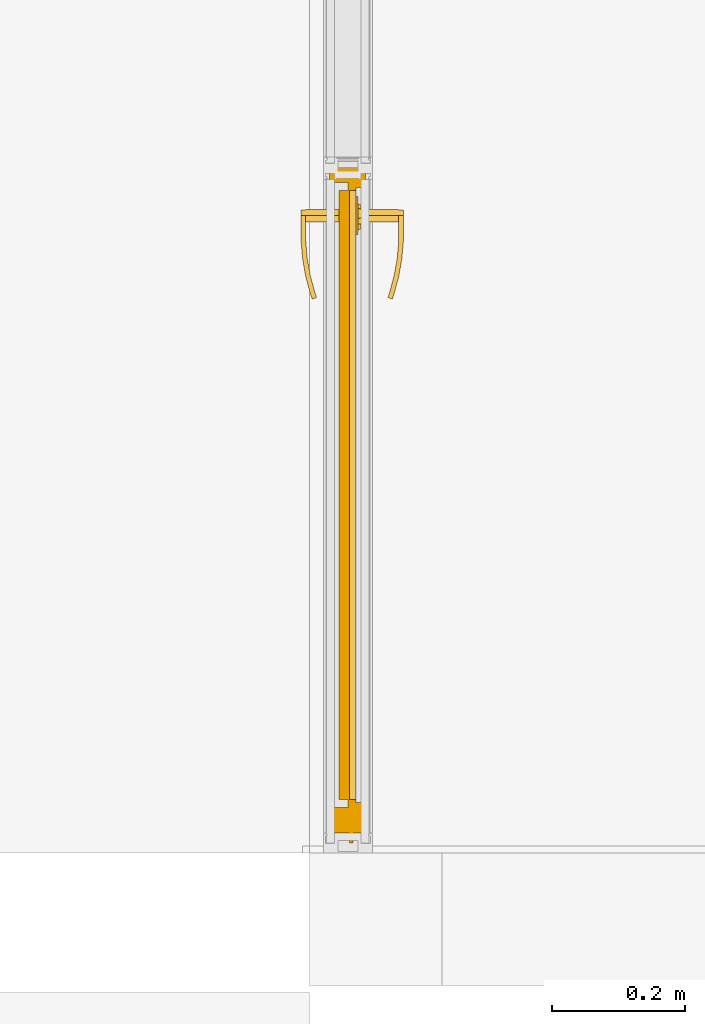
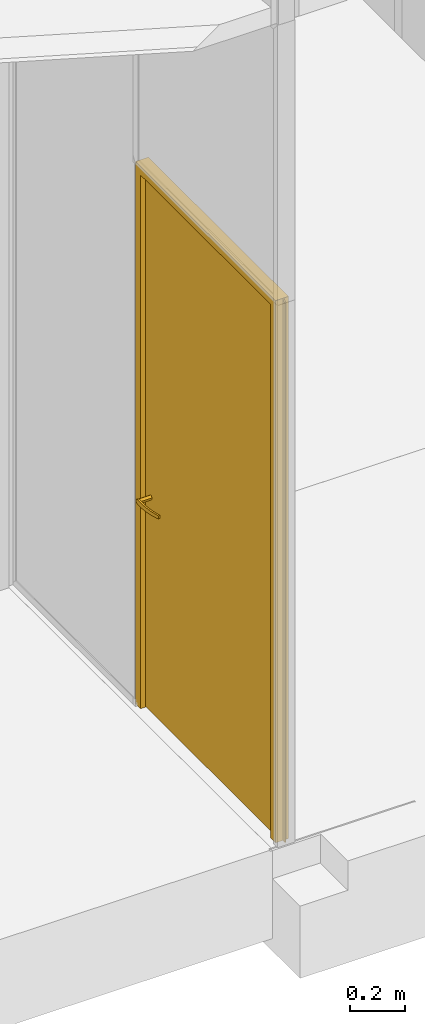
# One storey, part 30 of 43: 1 door, 1 element without a shape of its own.
"""IFC2X3 building model written with IfcOpenShell, lengths in millimetres."""

from ifc_helpers import new_model, entity, si_unit, converted_unit, derived_unit, money_unit, direction, frame, origin_with_axes, place, context, subcontext, project, spatial, open_shell, faceted_brep, surface_model, material, material_list, type_object, element, aggregate, save


model = new_model("IFC2X3")

# Units and contexts
model_context = context("Model", 3, precision=0.01, world=origin_with_axes(), true_north=direction((0.0, 1.0)))
body_context = subcontext(model_context, "Body", "Model", "MODEL_VIEW")
ifc_project = project(units=[si_unit("LENGTHUNIT", "METRE", prefix="MILLI"), si_unit("AREAUNIT", "SQUARE_METRE"), si_unit("VOLUMEUNIT", "CUBIC_METRE"), converted_unit("PLANEANGLEUNIT", "DEGREE", entity("IfcPlaneAngleMeasure", 0.0174532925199), si_unit("PLANEANGLEUNIT", "RADIAN"), dimensions=[0, 0, 0, 0, 0, 0, 0]), si_unit("SOLIDANGLEUNIT", "STERADIAN"), money_unit("EUR"), converted_unit("TIMEUNIT", "Year", entity("IfcTimeMeasure", 31556926.0), si_unit("TIMEUNIT", "SECOND"), dimensions=[0, 0, 1, 0, 0, 0, 0]), si_unit("MASSUNIT", "GRAM", prefix="KILO"), si_unit("THERMODYNAMICTEMPERATUREUNIT", "DEGREE_CELSIUS"), si_unit("LUMINOUSINTENSITYUNIT", "LUMEN"), si_unit("ENERGYUNIT", "JOULE", prefix="MEGA"), derived_unit("THERMALCONDUCTANCEUNIT", [(si_unit("POWERUNIT", "WATT"), 1), (si_unit("LENGTHUNIT", "METRE"), -1), (si_unit("THERMODYNAMICTEMPERATUREUNIT", "KELVIN"), -1)]), derived_unit("SPECIFICHEATCAPACITYUNIT", [(si_unit("ENERGYUNIT", "JOULE"), 1), (si_unit("MASSUNIT", "GRAM", prefix="KILO"), -1), (si_unit("THERMODYNAMICTEMPERATUREUNIT", "KELVIN"), -1)]), derived_unit("MASSDENSITYUNIT", [(si_unit("MASSUNIT", "GRAM", prefix="KILO"), 1), (si_unit("VOLUMEUNIT", "CUBIC_METRE"), -1)])], contexts=[model_context])

# Site, building, storey
site_placement = place(None, origin_with_axes())
site = spatial("IfcSite", under=ifc_project, at=site_placement, Name="L.Koidula tn 11b", CompositionType="ELEMENT")
building_placement = place(site_placement, origin_with_axes())
building = spatial("IfcBuilding", under=site, at=building_placement, Name="Rakvere Riigigümnaasium", CompositionType="ELEMENT")
storey_placement = place(building_placement, frame((0.0, 0.0, 6665.0), z_axis=(0.0, 0.0, 1.0), x_axis=(1.0, 0.0, 0.0)))
storey = spatial("IfcBuildingStorey", under=building, at=storey_placement, Name="3.korrus +6,66", CompositionType="ELEMENT", Elevation=6665.0)

# Curtain wall, door
curtain_wall_type = type_object("IfcCurtainWallType", Name="Curtain Wall Type", PredefinedType="NOTDEFINED")
curtain_wall_placement = place(storey_placement, frame((47063.0738161, 17825.4555095, 0.0), z_axis=(0.0, 0.0, 1.0), x_axis=(1.0, 0.0, 0.0)))
curtain_wall = element("IfcCurtainWall", 1, at=curtain_wall_placement, inside=storey, type_object=curtain_wall_type, Name="SKLF-24")
ifc_material_1 = material(Name="Alumiiniumprofiil")
ifc_material_2 = material(Name="VKR-05_Klaas")
ifc_material_3 = material(Name="ET-07_Teras - Roostevaba")
ifc_material_list = material_list([ifc_material_1, ifc_material_2, ifc_material_3])
door_style = type_object("IfcDoorStyle", Name="Siseklaasfassaad - Klaasuks-Doubleline 1015 x 2385 x -5", ConstructionType="NOTDEFINED", OperationType="NOTDEFINED", ParameterTakesPrecedence=False, Sizeable=False)
door_placement = place(curtain_wall_placement, frame((0.0, 177.333335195, 1200.0), z_axis=(0.0, 0.0, 1.0), x_axis=(0.0, -1.0, 0.0)))
door = element("IfcDoor", 2, at=door_placement, type_object=door_style, material=ifc_material_list, Name="Panel-Siseklaasf-004", ObjectType="DOOR", context=body_context, shape_type="SurfaceModel", body=[
    faceted_brep([(-354.666664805, 7.5, -1200.0), (-354.666664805, 7.5, 1200.0), (-354.666664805, 21.5, 1200.0), (-354.666664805, 21.5, -1200.0), (-308.666664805, 7.5, -1200.0), (-308.666664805, 7.5, 1154.0), (-308.666664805, 21.5, 1154.0), (-308.666664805, 21.5, -1200.0)], [[[0, 1, 2, 3]], [[0, 4, 5, 1]], [[1, 5, 6, 2]], [[3, 2, 6, 7]], [[4, 0, 3, 7]], [[5, 4, 7, 6]]]),
    faceted_brep([(662.333299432, 7.5, 1200.0), (616.333299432, 7.5, 1154.0), (616.333299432, 21.5, 1154.0), (662.333299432, 21.5, 1200.0), (-354.666664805, 7.5, 1200.0), (-308.666664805, 7.5, 1154.0), (-308.666664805, 21.5, 1154.0), (-354.666664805, 21.5, 1200.0)], [[[0, 1, 2, 3]], [[0, 4, 5, 1]], [[1, 5, 6, 2]], [[3, 2, 6, 7]], [[4, 0, 3, 7]], [[5, 4, 7, 6]]]),
    faceted_brep([(662.333299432, 7.5, -1200.0), (616.333299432, 7.5, -1200.0), (616.333299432, 21.5, -1200.0), (662.333299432, 21.5, -1200.0), (662.333299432, 7.5, 1200.0), (616.333299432, 7.5, 1154.0), (616.333299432, 21.5, 1154.0), (662.333299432, 21.5, 1200.0)], [[[0, 1, 2, 3]], [[0, 4, 5, 1]], [[1, 5, 6, 2]], [[3, 2, 6, 7]], [[4, 0, 3, 7]], [[5, 4, 7, 6]]]),
    faceted_brep([(-354.666664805, -32.5, -1200.0), (-354.666664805, -32.5, 1200.0), (-354.666664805, 7.5, 1200.0), (-354.666664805, 7.5, -1200.0), (-316.666664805, -32.5, -1200.0), (-316.666664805, -32.5, 1162.0), (-316.666664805, 7.5, 1162.0), (-316.666664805, 7.5, -1200.0)], [[[0, 1, 2, 3]], [[0, 4, 5, 1]], [[1, 5, 6, 2]], [[3, 2, 6, 7]], [[4, 0, 3, 7]], [[5, 4, 7, 6]]]),
    faceted_brep([(662.333299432, -32.5, 1200.0), (624.333299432, -32.5, 1162.0), (624.333299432, 7.5, 1162.0), (662.333299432, 7.5, 1200.0), (-354.666664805, -32.5, 1200.0), (-316.666664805, -32.5, 1162.0), (-316.666664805, 7.5, 1162.0), (-354.666664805, 7.5, 1200.0)], [[[0, 1, 2, 3]], [[0, 4, 5, 1]], [[1, 5, 6, 2]], [[3, 2, 6, 7]], [[4, 0, 3, 7]], [[5, 4, 7, 6]]]),
    faceted_brep([(662.333299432, -32.5, -1200.0), (624.333299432, -32.5, -1200.0), (624.333299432, 7.5, -1200.0), (662.333299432, 7.5, -1200.0), (662.333299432, -32.5, 1200.0), (624.333299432, -32.5, 1162.0), (624.333299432, 7.5, 1162.0), (662.333299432, 7.5, 1200.0)], [[[0, 1, 2, 3]], [[0, 4, 5, 1]], [[1, 5, 6, 2]], [[3, 2, 6, 7]], [[4, 0, 3, 7]], [[5, 4, 7, 6]]]),
    faceted_brep([(-354.666664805, -2.5, 1200.0), (662.333299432, -2.5, 1200.0), (662.333299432, 2.5, 1200.0), (-354.666664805, 2.5, 1200.0), (-354.666664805, -2.5, 1185.0), (677.333335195, -2.5, 1185.0), (677.333335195, 2.5, 1185.0), (-354.666664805, 2.5, 1185.0)], [[[0, 1, 2, 3]], [[0, 4, 5, 1]], [[1, 5, 6, 2]], [[3, 2, 6, 7]], [[4, 0, 3, 7]], [[5, 4, 7, 6]]]),
    faceted_brep([(677.333335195, -2.5, 1185.0), (677.333335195, -2.5, -1200.0), (677.333335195, 2.5, -1200.0), (677.333335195, 2.5, 1185.0), (662.333299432, -2.5, 1200.0), (662.333299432, -2.5, -1200.0), (662.333299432, 2.5, -1200.0), (662.333299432, 2.5, 1200.0)], [[[0, 1, 2, 3]], [[0, 4, 5, 1]], [[1, 5, 6, 2]], [[3, 2, 6, 7]], [[4, 0, 3, 7]], [[5, 4, 7, 6]]]),
    faceted_brep([(612.333299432, 7.5, -1188.0), (612.333299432, -4.5, -1188.0), (612.333299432, -4.5, 1150.0), (612.333299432, 7.5, 1150.0), (624.333299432, 7.5, -1200.0), (624.333299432, -4.5, -1200.0), (624.333299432, -4.5, 1162.0), (624.333299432, 7.5, 1162.0)], [[[0, 1, 2, 3]], [[4, 5, 1, 0]], [[1, 5, 6, 2]], [[3, 2, 6, 7]], [[0, 3, 7, 4]], [[7, 6, 5, 4]]]),
    faceted_brep([(-316.666664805, 7.5, -1200.0), (-316.666664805, -4.5, -1200.0), (-316.666664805, -4.5, 1162.0), (-316.666664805, 7.5, 1162.0), (-304.666664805, 7.5, -1188.0), (-304.666664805, -4.5, -1188.0), (-304.666664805, -4.5, 1150.0), (-304.666664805, 7.5, 1150.0)], [[[0, 1, 2, 3]], [[4, 5, 1, 0]], [[1, 5, 6, 2]], [[3, 2, 6, 7]], [[0, 3, 7, 4]], [[7, 6, 5, 4]]]),
    faceted_brep([(-316.666664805, 7.5, -1200.0), (-316.666664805, -4.5, -1200.0), (-304.666664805, -4.5, -1188.0), (-304.666664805, 7.5, -1188.0), (624.333299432, 7.5, -1200.0), (624.333299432, -4.5, -1200.0), (612.333299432, -4.5, -1188.0), (612.333299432, 7.5, -1188.0)], [[[0, 1, 2, 3]], [[4, 5, 1, 0]], [[1, 5, 6, 2]], [[3, 2, 6, 7]], [[0, 3, 7, 4]], [[7, 6, 5, 4]]]),
    faceted_brep([(624.333299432, 7.5, 1162.0), (624.333299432, -4.5, 1162.0), (612.333299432, -4.5, 1150.0), (612.333299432, 7.5, 1150.0), (-316.666664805, 7.5, 1162.0), (-316.666664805, -4.5, 1162.0), (-304.666664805, -4.5, 1150.0), (-304.666664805, 7.5, 1150.0)], [[[0, 1, 2, 3]], [[4, 5, 1, 0]], [[1, 5, 6, 2]], [[3, 2, 6, 7]], [[0, 3, 7, 4]], [[7, 6, 5, 4]]]),
    faceted_brep([(612.333299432, -2.5, -1188.0), (612.333299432, -18.5, -1188.0), (-304.666664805, -18.5, -1188.0), (-304.666664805, -2.5, -1188.0), (612.333299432, -2.5, 1150.0), (612.333299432, -18.5, 1150.0), (-304.666664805, -18.5, 1150.0), (-304.666664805, -2.5, 1150.0)], [[[0, 1, 2, 3]], [[4, 5, 1, 0]], [[1, 5, 6, 2]], [[3, 2, 6, 7]], [[0, 3, 7, 4]], [[7, 6, 5, 4]]]),
    faceted_brep([(-295.166664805, -4.5, -178.0), (-295.166664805, -7.5, -178.0), (-238.166664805, -7.5, -178.0), (-238.166664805, -4.5, -178.0), (-295.166664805, -4.5, -368.0), (-295.166664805, -7.5, -368.0), (-238.166664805, -7.5, -368.0), (-238.166664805, -4.5, -368.0)], [[[0, 1, 2, 3]], [[4, 5, 1, 0]], [[1, 5, 6, 2]], [[3, 2, 6, 7]], [[0, 3, 7, 4]], [[7, 6, 5, 4]]]),
    surface_model("IfcShellBasedSurfaceModel", [(-266.666664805, -68.5, -248.0), (-266.666664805, -75.5, -248.0), (-275.326918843, -75.5, -243.0), (-275.326918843, -68.5, -243.0), (-241.666664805, -68.5, -248.0), (-241.666664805, -75.5, -248.0), (-241.666664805, -75.5, -228.0), (-266.666664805, -75.5, -228.0), (-275.326918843, -75.5, -233.0), (-275.326918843, -68.5, -233.0), (-266.666664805, -68.5, -228.0), (-241.666664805, -68.5, -228.0)], [open_shell([[[0, 1, 2, 3]], [[4, 5, 1, 0]], [[1, 5, 6, 7, 8, 2]], [[3, 2, 8, 9]], [[0, 3, 9, 10, 11, 4]], [[10, 7, 6, 11]], [[9, 8, 7, 10]]])]),
    surface_model("IfcShellBasedSurfaceModel", [(-241.666664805, -68.5, -228.0), (-228.262755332, -75.5, -228.392699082), (-228.568381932, -68.5, -228.392699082), (-241.666664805, -75.5, -228.0), (-201.556948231, -73.1635446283, -229.178097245), (-228.568381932, -68.5, -247.607300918), (-241.666664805, -68.5, -248.0), (-241.666664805, -75.5, -248.0), (-228.262755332, -75.5, -247.607300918), (-201.556948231, -73.1635446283, -246.821902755), (-202.471502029, -66.216818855, -229.178097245), (-202.471502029, -66.216818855, -246.821902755), (-175.156400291, -68.5084157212, -246.036504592), (-175.156400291, -68.5084157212, -229.963495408), (-176.672920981, -61.6678329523, -229.963495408), (-176.672920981, -61.6678329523, -246.036504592), (-149.262035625, -61.5700416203, -245.251106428), (-149.262035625, -61.5700416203, -230.748893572), (-151.368981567, -54.8876628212, -230.748893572), (-151.368981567, -54.8876628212, -245.251106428), (-141.205460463, -58.6376880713, -245.0), (-141.205460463, -58.6376880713, -231.0), (-143.496106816, -52.0221707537, -231.0), (-143.496106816, -52.0221707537, -245.0)], [open_shell([[[0, 1, 2]], [[0, 3, 1]], [[2, 1, 4]], [[0, 2, 5, 6]], [[3, 7, 8, 1]], [[1, 8, 9, 4]], [[2, 4, 10]], [[2, 10, 11, 5]], [[5, 7, 6]], [[5, 8, 7]], [[11, 9, 8]], [[4, 9, 12, 13]], [[10, 4, 13]], [[10, 14, 15, 11]], [[11, 8, 5]], [[15, 9, 11]], [[15, 12, 9]], [[13, 12, 16, 17]], [[10, 13, 14]], [[14, 18, 19, 15]], [[19, 12, 15]], [[19, 16, 12]], [[17, 16, 20, 21]], [[14, 13, 17]], [[14, 17, 18]], [[18, 22, 23, 19]], [[23, 16, 19]], [[23, 20, 16]], [[22, 21, 20, 23]], [[18, 17, 21]], [[18, 21, 22]]])]),
    faceted_brep([(-262.958460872, -17.5, -249.412678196), (-262.649443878, -7.5, -250.363734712), (-253.666664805, -7.5, -238.0), (-254.666664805, -17.5, -238.0), (-276.374868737, -17.5, -245.053423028), (-277.183885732, -7.5, -245.64120828), (-277.183885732, -7.5, -230.35879172), (-262.649443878, -7.5, -225.636265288), (-262.958460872, -17.5, -226.587321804), (-276.374868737, -17.5, -230.946576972)], [[[0, 1, 2, 3]], [[4, 5, 1, 0]], [[2, 1, 5, 6, 7]], [[3, 2, 7, 8]], [[3, 8, 9, 4, 0]], [[9, 6, 5, 4]], [[8, 7, 6, 9]]]),
    faceted_brep([(-260.486324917, -11.5, -352.021130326), (-259.868290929, -7.5, -353.923243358), (-244.666664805, -7.5, -333.0), (-246.666664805, -11.5, -333.0), (-282.847004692, -11.5, -344.755705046), (-284.465038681, -7.5, -345.93127555), (-284.465038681, -7.5, -320.06872445), (-259.868290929, -7.5, -312.076756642), (-260.486324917, -11.5, -313.978869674), (-282.847004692, -11.5, -321.244294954)], [[[0, 1, 2, 3]], [[4, 5, 1, 0]], [[2, 1, 5, 6, 7]], [[3, 2, 7, 8]], [[3, 8, 9, 4, 0]], [[9, 6, 5, 4]], [[8, 7, 6, 9]]]),
    faceted_brep([(-264.503545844, -13.5, -330.657395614), (-264.19452885, -11.5, -331.60845213), (-258.666664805, -11.5, -324.0), (-259.666664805, -13.5, -324.0), (-272.329783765, -13.5, -328.114496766), (-273.13880076, -11.5, -328.702282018), (-273.13880076, -11.5, -319.297717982), (-264.19452885, -11.5, -316.39154787), (-264.503545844, -13.5, -317.342604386), (-272.329783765, -13.5, -319.885503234)], [[[0, 1, 2, 3]], [[4, 5, 1, 0]], [[2, 1, 5, 6, 7]], [[3, 2, 7, 8]], [[3, 8, 9, 4, 0]], [[9, 6, 5, 4]], [[8, 7, 6, 9]]]),
    faceted_brep([(-266.666664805, -17.5, -228.0), (-266.666664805, -68.5, -228.0), (-257.156099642, -68.5, -234.909830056), (-257.156099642, -17.5, -234.909830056), (-276.177229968, -17.5, -234.909830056), (-276.177229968, -68.5, -234.909830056), (-272.544517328, -68.5, -246.090169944), (-260.788812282, -68.5, -246.090169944), (-260.788812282, -17.5, -246.090169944), (-272.544517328, -17.5, -246.090169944)], [[[0, 1, 2, 3]], [[4, 5, 1, 0]], [[1, 5, 6, 7, 2]], [[3, 2, 7, 8]], [[0, 3, 8, 9, 4]], [[9, 6, 5, 4]], [[8, 7, 6, 9]]]),
    faceted_brep([(-295.166664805, 7.5, -178.0), (-238.166664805, 7.5, -178.0), (-238.166664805, 10.5, -178.0), (-295.166664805, 10.5, -178.0), (-295.166664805, 7.5, -368.0), (-238.166664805, 7.5, -368.0), (-238.166664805, 10.5, -368.0), (-295.166664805, 10.5, -368.0)], [[[0, 1, 2, 3]], [[0, 4, 5, 1]], [[1, 5, 6, 2]], [[3, 2, 6, 7]], [[4, 0, 3, 7]], [[5, 4, 7, 6]]]),
    surface_model("IfcShellBasedSurfaceModel", [(-266.666664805, 71.5, -248.0), (-275.326918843, 71.5, -243.0), (-275.326918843, 78.5, -243.0), (-266.666664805, 78.5, -248.0), (-241.666664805, 71.5, -248.0), (-241.666664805, 71.5, -228.0), (-266.666664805, 71.5, -228.0), (-275.326918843, 71.5, -233.0), (-275.326918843, 78.5, -233.0), (-266.666664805, 78.5, -228.0), (-241.666664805, 78.5, -228.0), (-241.666664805, 78.5, -248.0)], [open_shell([[[0, 1, 2, 3]], [[0, 4, 5, 6, 7, 1]], [[1, 7, 8, 2]], [[3, 2, 8, 9, 10, 11]], [[4, 0, 3, 11]], [[6, 5, 10, 9]], [[7, 6, 9, 8]]])]),
    surface_model("IfcShellBasedSurfaceModel", [(-241.666664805, 71.5, -228.0), (-228.568381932, 71.5, -228.392699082), (-228.262755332, 78.5, -228.392699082), (-241.666664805, 71.5, -248.0), (-228.568381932, 71.5, -247.607300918), (-201.556948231, 76.1635446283, -229.178097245), (-241.666664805, 78.5, -228.0), (-241.666664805, 78.5, -248.0), (-202.471502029, 69.216818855, -246.821902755), (-202.471502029, 69.216818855, -229.178097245), (-201.556948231, 76.1635446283, -246.821902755), (-228.262755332, 78.5, -247.607300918), (-176.672920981, 64.6678329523, -246.036504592), (-176.672920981, 64.6678329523, -229.963495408), (-175.156400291, 71.5084157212, -229.963495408), (-175.156400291, 71.5084157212, -246.036504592), (-151.368981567, 57.8876628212, -245.251106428), (-151.368981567, 57.8876628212, -230.748893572), (-149.262035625, 64.5700416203, -230.748893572), (-149.262035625, 64.5700416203, -245.251106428), (-143.496106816, 55.0221707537, -245.0), (-143.496106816, 55.0221707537, -231.0), (-141.205460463, 61.6376880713, -231.0), (-141.205460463, 61.6376880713, -245.0)], [open_shell([[[0, 1, 2]], [[0, 3, 4, 1]], [[1, 5, 2]], [[0, 2, 6]], [[4, 3, 7]], [[1, 4, 8, 9]], [[1, 9, 5]], [[2, 5, 10, 11]], [[6, 2, 11, 7]], [[4, 7, 11]], [[8, 4, 11]], [[9, 8, 12, 13]], [[9, 14, 5]], [[5, 14, 15, 10]], [[8, 11, 10]], [[12, 8, 10]], [[13, 12, 16, 17]], [[9, 13, 14]], [[14, 18, 19, 15]], [[12, 10, 15]], [[16, 12, 15]], [[17, 16, 20, 21]], [[13, 17, 18]], [[13, 18, 14]], [[18, 22, 23, 19]], [[16, 15, 19]], [[20, 16, 19]], [[21, 20, 23, 22]], [[17, 21, 22]], [[17, 22, 18]], [[20, 19, 23]]])]),
    faceted_brep([(-262.958460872, 20.5, -249.412678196), (-254.666664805, 20.5, -238.0), (-253.666664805, 10.5, -238.0), (-262.649443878, 10.5, -250.363734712), (-276.374868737, 20.5, -245.053423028), (-276.374868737, 20.5, -230.946576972), (-262.958460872, 20.5, -226.587321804), (-262.649443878, 10.5, -225.636265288), (-277.183885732, 10.5, -230.35879172), (-277.183885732, 10.5, -245.64120828)], [[[0, 1, 2, 3]], [[1, 0, 4, 5, 6]], [[1, 6, 7, 2]], [[2, 7, 8, 9, 3]], [[4, 0, 3, 9]], [[5, 4, 9, 8]], [[6, 5, 8, 7]]]),
    faceted_brep([(-260.486324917, 14.5, -352.021130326), (-246.666664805, 14.5, -333.0), (-244.666664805, 10.5, -333.0), (-259.868290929, 10.5, -353.923243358), (-282.847004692, 14.5, -344.755705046), (-282.847004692, 14.5, -321.244294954), (-260.486324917, 14.5, -313.978869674), (-259.868290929, 10.5, -312.076756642), (-284.465038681, 10.5, -320.06872445), (-284.465038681, 10.5, -345.93127555)], [[[0, 1, 2, 3]], [[1, 0, 4, 5, 6]], [[1, 6, 7, 2]], [[2, 7, 8, 9, 3]], [[4, 0, 3, 9]], [[5, 4, 9, 8]], [[6, 5, 8, 7]]]),
    faceted_brep([(-264.503545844, 16.5, -330.657395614), (-259.666664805, 16.5, -324.0), (-258.666664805, 14.5, -324.0), (-264.19452885, 14.5, -331.60845213), (-272.329783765, 16.5, -328.114496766), (-272.329783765, 16.5, -319.885503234), (-264.503545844, 16.5, -317.342604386), (-264.19452885, 14.5, -316.39154787), (-273.13880076, 14.5, -319.297717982), (-273.13880076, 14.5, -328.702282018)], [[[0, 1, 2, 3]], [[1, 0, 4, 5, 6]], [[1, 6, 7, 2]], [[2, 7, 8, 9, 3]], [[4, 0, 3, 9]], [[5, 4, 9, 8]], [[6, 5, 8, 7]]]),
    faceted_brep([(-266.666664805, 20.5, -228.0), (-257.156099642, 20.5, -234.909830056), (-257.156099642, 71.5, -234.909830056), (-266.666664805, 71.5, -228.0), (-276.177229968, 20.5, -234.909830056), (-272.544517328, 20.5, -246.090169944), (-260.788812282, 20.5, -246.090169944), (-260.788812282, 71.5, -246.090169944), (-272.544517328, 71.5, -246.090169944), (-276.177229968, 71.5, -234.909830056)], [[[0, 1, 2, 3]], [[0, 4, 5, 6, 1]], [[1, 6, 7, 2]], [[3, 2, 7, 8, 9]], [[4, 0, 3, 9]], [[5, 4, 9, 8]], [[6, 5, 8, 7]]]),
])
aggregate(curtain_wall, [door])

save(model, "model.ifc")
